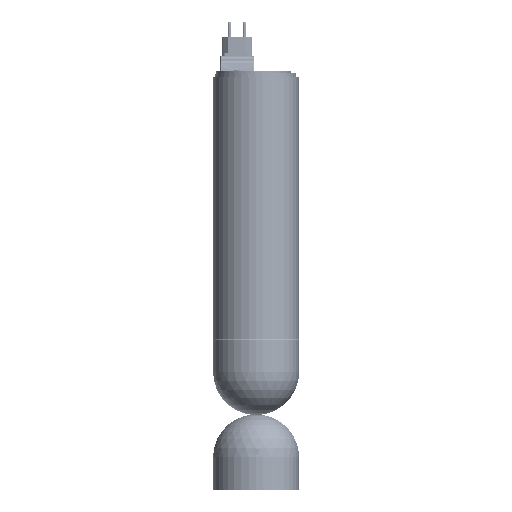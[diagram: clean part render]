
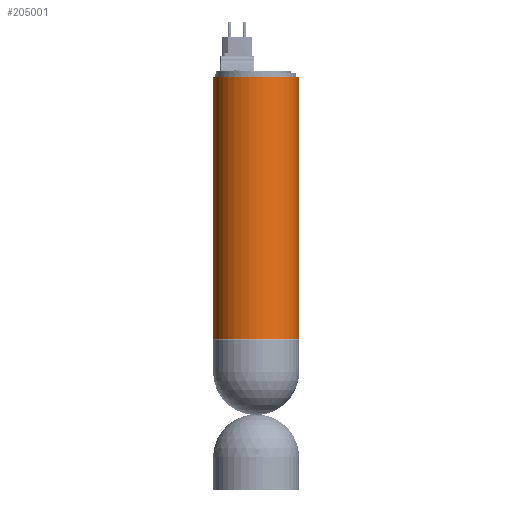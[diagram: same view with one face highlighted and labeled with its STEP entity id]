
A CAD part, front view. The second image highlights one B-rep face of the part: STEP entity #205001.
In plain terms, the highlighted cylindrical face has radius 51.5 mm (diameter 103 mm), a full revolution.
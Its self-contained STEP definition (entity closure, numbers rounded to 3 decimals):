
#4652=CYLINDRICAL_SURFACE('',#282549,51.5);
#42883=CIRCLE('',#282550,51.5);
#42884=CIRCLE('',#282551,51.5);
#90881=ORIENTED_EDGE('',*,*,#130376,.F.);
#90882=ORIENTED_EDGE('',*,*,#130377,.T.);
#130376=EDGE_CURVE('',#153117,#153117,#42883,.T.);
#130377=EDGE_CURVE('',#153118,#153118,#42884,.T.);
#153117=VERTEX_POINT('',#505094);
#153118=VERTEX_POINT('',#505096);
#176826=EDGE_LOOP('',(#90881));
#176827=EDGE_LOOP('',(#90882));
#190451=FACE_BOUND('',#176826,.T.);
#190452=FACE_BOUND('',#176827,.T.);
#205001=ADVANCED_FACE('',(#190451,#190452),#4652,.T.);
#282549=AXIS2_PLACEMENT_3D('',#505092,#325046,#325047);
#282550=AXIS2_PLACEMENT_3D('',#505093,#325048,#325049);
#282551=AXIS2_PLACEMENT_3D('',#505095,#325050,#325051);
#325046=DIRECTION('',(0.,0.,1.));
#325047=DIRECTION('',(1.,0.,0.));
#325048=DIRECTION('',(0.,0.,-1.));
#325049=DIRECTION('',(1.,0.,0.));
#325050=DIRECTION('',(0.,0.,-1.));
#325051=DIRECTION('',(1.,0.,0.));
#505092=CARTESIAN_POINT('',(0.,0.,-314.));
#505093=CARTESIAN_POINT('',(0.,0.,-314.));
#505094=CARTESIAN_POINT('',(51.5,0.,-314.));
#505095=CARTESIAN_POINT('',(0.,0.,0.));
#505096=CARTESIAN_POINT('',(51.5,0.,0.));
